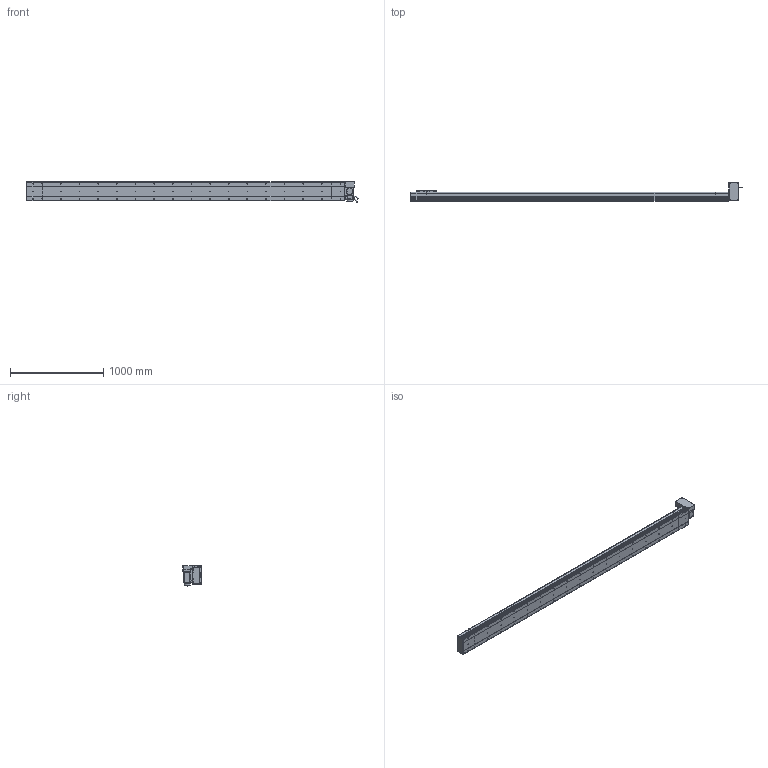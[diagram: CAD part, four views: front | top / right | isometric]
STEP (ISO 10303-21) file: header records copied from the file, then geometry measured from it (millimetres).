
FILE_DESCRIPTION (( 'STEP AP214' ), '1' );
FILE_NAME ('D20 CBH LT S3100.STEP', '2010-06-30T10:43:08', ( 'Conseil Régional Haute-Normandie' ), ( 'Conseil Régional Haute-Normandie' ), 'SwSTEP 2.0', 'SolidWorks 2010', '' );
FILE_SCHEMA (( 'AUTOMOTIVE_DESIGN' ));
Length unit declared in the file: millimetre
Products named in the file (31): Couvercle LT_Default; Plaque De Serrage D20 LT_Default; Plaque de Bout Head D20 LT_Default; vis M5 L15_Default; Chariot D20_Default; Support moteur LT_Default; avant 90BLDC125A-640; Rondelle Cache D20 LT_Default; codeur 90BLDC125-640; Conecteur2_Default; corps 90BLDC125A-640; vis M5 L30_Default; ecrou_Default; Cache Support Moteur LT_Default; Conecteur_Default; vis M5 L47_Default; Moteur motionking 90BLDC125A-640; Couvercle S3100_Default; Corp D20 S3100_Default; Couvercle_Default; Corp Tail D20+100_Default; Corp S3100_Default; Support Chariot D20_Default; Glissiere_Default; Plaque De Serrage D20_Default; Plaque de Bout Tail D20_Default; Tail D20+100_Default; Head LT_Default; D20 CBH LT S3100; Corp Tail D20 LT_Default
Assembly tree (66 placements, depth 4):
  D20 CBH LT S3100
    Head LT_Default
      Plaque De Serrage D20 LT_Default
      Cache Support Moteur LT_Default
      vis M5 L47_Default  x4
      ecrou_Default  x4
      Plaque de Bout Head D20 LT_Default
      Rondelle Cache D20 LT_Default  x3
      vis M5 L15_Default  x12
      Moteur motionking 90BLDC125A-640
        Conecteur_Default
        corps 90BLDC125A-640
        Conecteur2_Default
        avant 90BLDC125A-640
        codeur 90BLDC125-640
      vis M5 L30_Default  x4
      Support moteur LT_Default
      Couvercle LT_Default
      Corp Tail D20 LT_Default
    Tail D20+100_Default
      vis M5 L15_Default  x6
      Plaque de Bout Tail D20_Default
      Plaque De Serrage D20_Default
      Corp Tail D20+100_Default
      Couvercle_Default
    Chariot D20_Default
      vis M5 L15_Default  x8
      Glissiere_Default
      Chariot D20_Default
      Support Chariot D20_Default
    Corp D20 S3100_Default
      Corp S3100_Default
      Couvercle S3100_Default
Bounding box: 3563.45 x 202.5 x 229.7 mm (x, y, z)
Volume: 23795942.1 mm3; surface area: 4585487.9 mm2
Topology: 103 solids, 103 shells, 3840 faces, 9602 edges, 6244 vertices
Faces by surface type: plane 2119, bspline 806, cylinder 752, torus 91, cone 68, sphere 4
Entity records: 162478 total; most frequent: CARTESIAN_POINT 83530, ORIENTED_EDGE 15672, DIRECTION 11976, EDGE_CURVE 7836, VERTEX_POINT 5188, VECTOR 5000, LINE 5000, AXIS2_PLACEMENT_3D 3488
